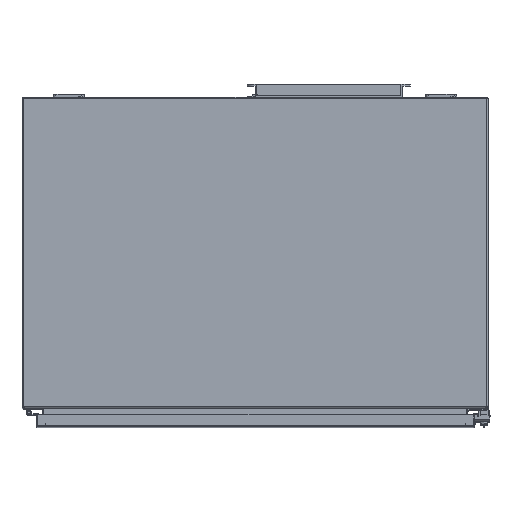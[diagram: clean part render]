
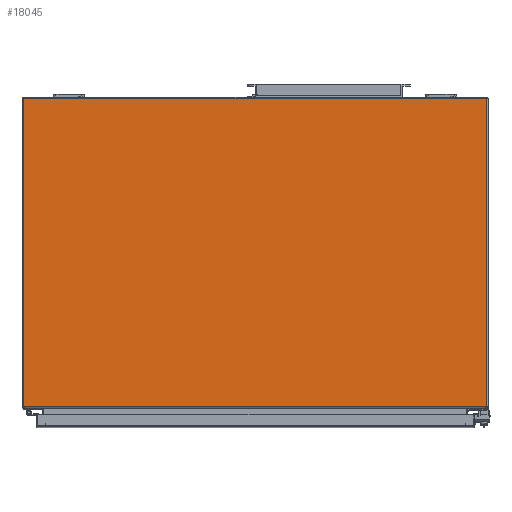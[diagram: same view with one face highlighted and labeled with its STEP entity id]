
A CAD part, top view. The second image highlights one B-rep face of the part: STEP entity #18045.
In plain terms, the highlighted planar face has unit normal (0, 0, 1).
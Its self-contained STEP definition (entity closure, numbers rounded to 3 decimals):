
#2535=LINE('',#34000,#4157);
#2539=LINE('',#34009,#4161);
#2542=LINE('',#34016,#4164);
#2546=LINE('',#34023,#4168);
#4157=VECTOR('',#24080,1000.);
#4161=VECTOR('',#24088,1000.);
#4164=VECTOR('',#24093,1000.);
#4168=VECTOR('',#24099,1000.);
#9619=ORIENTED_EDGE('',*,*,#12133,.F.);
#9620=ORIENTED_EDGE('',*,*,#12132,.F.);
#9621=ORIENTED_EDGE('',*,*,#12125,.F.);
#9622=ORIENTED_EDGE('',*,*,#12128,.T.);
#9623=ORIENTED_EDGE('',*,*,#12136,.F.);
#9624=ORIENTED_EDGE('',*,*,#12121,.T.);
#12121=EDGE_CURVE('',#13767,#13773,#2535,.T.);
#12125=EDGE_CURVE('',#13776,#13777,#2539,.T.);
#12128=EDGE_CURVE('',#13776,#13779,#2542,.T.);
#12132=EDGE_CURVE('',#13777,#13781,#2546,.T.);
#12133=EDGE_CURVE('',#13781,#13773,#14277,.T.);
#12136=EDGE_CURVE('',#13767,#13779,#14280,.T.);
#13767=VERTEX_POINT('',#33911);
#13773=VERTEX_POINT('',#33993);
#13776=VERTEX_POINT('',#34008);
#13777=VERTEX_POINT('',#34010);
#13779=VERTEX_POINT('',#34015);
#13781=VERTEX_POINT('',#34021);
#14277=CIRCLE('',#19600,6.35);
#14280=CIRCLE('',#19605,6.35);
#15357=EDGE_LOOP('',(#9619,#9620,#9621,#9622,#9623,#9624));
#16443=FACE_BOUND('',#15357,.T.);
#17076=PLANE('',#19606);
#18045=ADVANCED_FACE('',(#16443),#17076,.T.);
#19600=AXIS2_PLACEMENT_3D('',#34025,#24102,#24103);
#19605=AXIS2_PLACEMENT_3D('',#34030,#24112,#24113);
#19606=AXIS2_PLACEMENT_3D('',#34031,#24114,#24115);
#24080=DIRECTION('',(1.,0.,0.));
#24088=DIRECTION('',(1.,0.,0.));
#24093=DIRECTION('',(0.,-1.,0.));
#24099=DIRECTION('',(0.,-1.,0.));
#24102=DIRECTION('',(0.,0.,-1.));
#24103=DIRECTION('',(-1.,0.,0.));
#24112=DIRECTION('',(0.,0.,-1.));
#24113=DIRECTION('',(1.,0.,0.));
#24114=DIRECTION('',(0.,0.,1.));
#24115=DIRECTION('',(0.,-1.,0.));
#33911=CARTESIAN_POINT('',(-378.42,-250.342,0.));
#33993=CARTESIAN_POINT('',(378.42,-250.342,0.));
#34000=CARTESIAN_POINT('',(-379.171,-250.342,0.));
#34008=CARTESIAN_POINT('',(-379.171,253.086,0.));
#34009=CARTESIAN_POINT('',(-379.171,253.086,0.));
#34010=CARTESIAN_POINT('',(379.171,253.086,0.));
#34015=CARTESIAN_POINT('',(-379.171,-247.346,0.));
#34016=CARTESIAN_POINT('',(-379.171,253.086,0.));
#34021=CARTESIAN_POINT('',(379.171,-247.346,0.));
#34023=CARTESIAN_POINT('',(379.171,253.086,0.));
#34025=CARTESIAN_POINT('',(372.821,-247.346,0.));
#34030=CARTESIAN_POINT('',(-372.821,-247.346,0.));
#34031=CARTESIAN_POINT('',(-379.171,253.086,0.));
